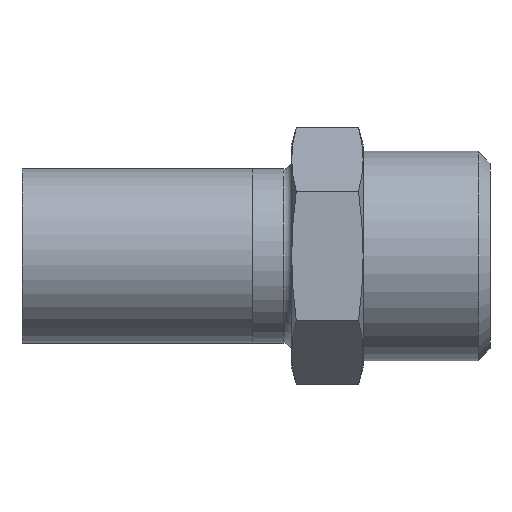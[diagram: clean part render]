
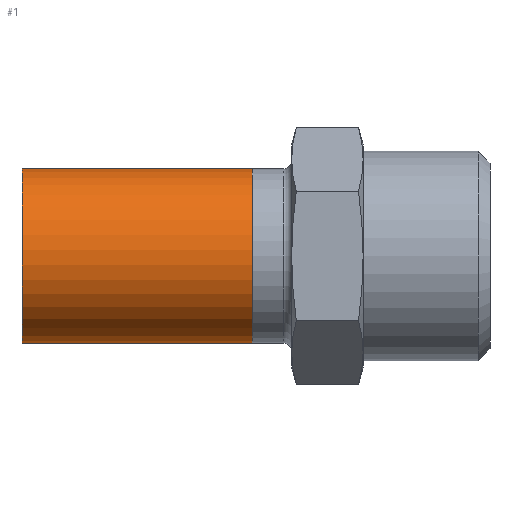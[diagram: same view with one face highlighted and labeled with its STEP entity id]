
A CAD part, front view. The second image highlights one B-rep face of the part: STEP entity #1.
In plain terms, the highlighted cylindrical face has radius 11 mm (diameter 22 mm), a partial arc.
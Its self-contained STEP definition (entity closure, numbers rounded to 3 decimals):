
#1 = ADVANCED_FACE ( 'NONE', ( #557 ), #273, .T. ) ;
#57 = EDGE_CURVE ( 'NONE', #602, #1553, #576, .T. ) ;
#140 = LINE ( 'NONE', #990, #160 ) ;
#160 = VECTOR ( 'NONE', #264, 1000. ) ;
#169 = EDGE_LOOP ( 'NONE', ( #1537, #950, #415, #732 ) ) ;
#264 = DIRECTION ( 'NONE',  ( 0., 0., -1. ) ) ;
#273 = CYLINDRICAL_SURFACE ( 'NONE', #928, 11. ) ;
#363 = CIRCLE ( 'NONE', #1444, 11. ) ;
#379 = CARTESIAN_POINT ( 'NONE',  ( -11., 0., 29. ) ) ;
#390 = VERTEX_POINT ( 'NONE', #379 ) ;
#410 = CIRCLE ( 'NONE', #451, 11. ) ;
#415 = ORIENTED_EDGE ( 'NONE', *, *, #970, .T. ) ;
#429 = EDGE_CURVE ( 'NONE', #1400, #1553, #363, .T. ) ;
#451 = AXIS2_PLACEMENT_3D ( 'NONE', #1291, #686, #1528 ) ;
#488 = EDGE_CURVE ( 'NONE', #390, #602, #410, .T. ) ;
#557 = FACE_OUTER_BOUND ( 'NONE', #169, .T. ) ;
#562 = CARTESIAN_POINT ( 'NONE',  ( -11., 0., 0. ) ) ;
#576 = LINE ( 'NONE', #714, #1172 ) ;
#582 = CARTESIAN_POINT ( 'NONE',  ( 11., 0., 0. ) ) ;
#602 = VERTEX_POINT ( 'NONE', #918 ) ;
#686 = DIRECTION ( 'NONE',  ( 0., 0., 1. ) ) ;
#714 = CARTESIAN_POINT ( 'NONE',  ( 11., 0., 29. ) ) ;
#722 = DIRECTION ( 'NONE',  ( 0., 0., -1. ) ) ;
#732 = ORIENTED_EDGE ( 'NONE', *, *, #429, .T. ) ;
#785 = CARTESIAN_POINT ( 'NONE',  ( 0., 0., 0. ) ) ;
#885 = DIRECTION ( 'NONE',  ( 1., 0., 0. ) ) ;
#918 = CARTESIAN_POINT ( 'NONE',  ( 11., 0., 29. ) ) ;
#928 = AXIS2_PLACEMENT_3D ( 'NONE', #1433, #722, #1321 ) ;
#950 = ORIENTED_EDGE ( 'NONE', *, *, #488, .F. ) ;
#970 = EDGE_CURVE ( 'NONE', #390, #1400, #140, .T. ) ;
#990 = CARTESIAN_POINT ( 'NONE',  ( -11., 0., 29. ) ) ;
#1028 = DIRECTION ( 'NONE',  ( 0., 0., 1. ) ) ;
#1172 = VECTOR ( 'NONE', #1454, 1000. ) ;
#1291 = CARTESIAN_POINT ( 'NONE',  ( 0., 0., 29. ) ) ;
#1321 = DIRECTION ( 'NONE',  ( -1., 0., 0. ) ) ;
#1400 = VERTEX_POINT ( 'NONE', #562 ) ;
#1433 = CARTESIAN_POINT ( 'NONE',  ( 0., 0., 29. ) ) ;
#1444 = AXIS2_PLACEMENT_3D ( 'NONE', #785, #1028, #885 ) ;
#1454 = DIRECTION ( 'NONE',  ( 0., 0., -1. ) ) ;
#1528 = DIRECTION ( 'NONE',  ( 1., 0., 0. ) ) ;
#1537 = ORIENTED_EDGE ( 'NONE', *, *, #57, .F. ) ;
#1553 = VERTEX_POINT ( 'NONE', #582 ) ;
